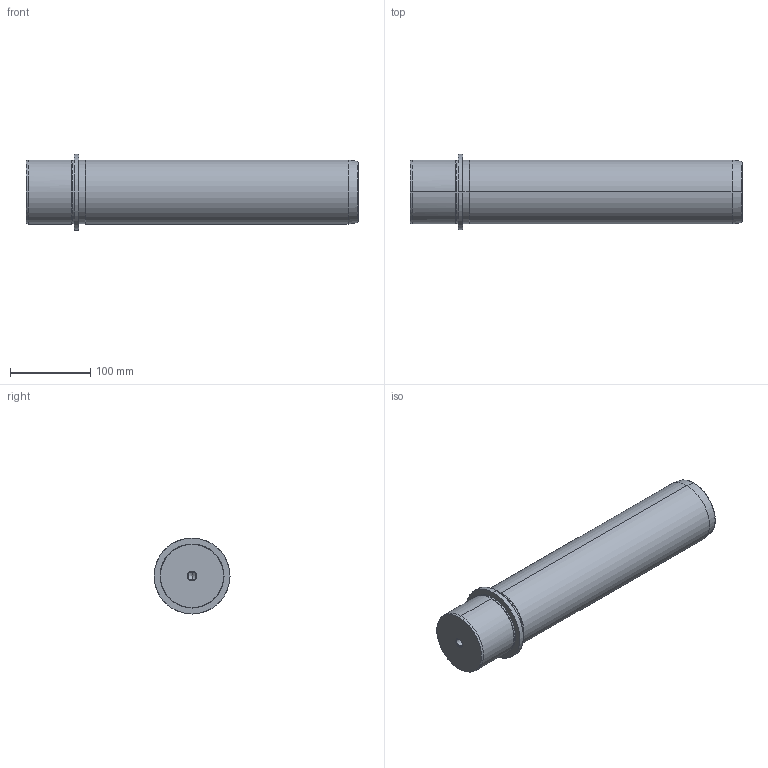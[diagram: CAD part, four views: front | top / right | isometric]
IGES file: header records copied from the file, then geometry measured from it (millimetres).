
Start section: START RECORD GO HERE.
Global section: file name: 718-80x355.igs; native system: DASSAULT SYSTEMES CATIA V5 R20 - www.3ds.com; preprocessor: CATIA Version 5 Release 20 ; author: Utente; organization: NB04-ASUS; date: 20210102.083310; units: millimetre
Bounding box: 415 x 95 x 95 mm (x, y, z)
Surface area: 119930.5 mm2 (no closed solid volume)
Topology: 0 solids, 0 shells, 36 faces, 220 edges, 216 vertices
Faces by surface type: revolution 32, plane 4
